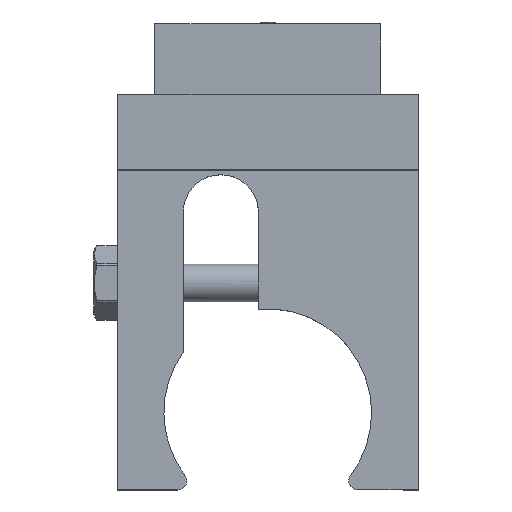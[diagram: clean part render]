
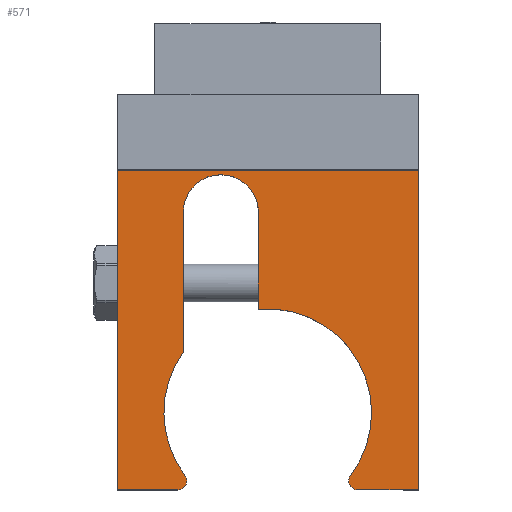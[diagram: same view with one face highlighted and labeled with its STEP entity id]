
A CAD part, top view. The second image highlights one B-rep face of the part: STEP entity #571.
In plain terms, the highlighted planar face has unit normal (0, 0, 1).
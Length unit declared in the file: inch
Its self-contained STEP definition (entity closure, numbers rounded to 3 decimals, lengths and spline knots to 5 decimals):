
#175=CARTESIAN_POINT('',(1.,1.612,0.));
#176=VERTEX_POINT('',#175);
#183=CARTESIAN_POINT('',(1.,-0.513,0.));
#184=VERTEX_POINT('',#183);
#185=CARTESIAN_POINT('',(1.,1.612,0.));
#186=DIRECTION('',(0.0,-1.0,0.0));
#187=VECTOR('',#186,2.125);
#188=LINE('',#185,#187);
#189=EDGE_CURVE('',#176,#184,#188,.T.);
#240=CARTESIAN_POINT('',(-0.062,0.68721,0.));
#241=VERTEX_POINT('',#240);
#242=CARTESIAN_POINT('',(-0.062,1.331,0.));
#243=VERTEX_POINT('',#242);
#244=CARTESIAN_POINT('',(-0.062,0.68721,0.));
#245=DIRECTION('',(0.0,1.0,0.0));
#246=VECTOR('',#245,0.64379);
#247=LINE('',#244,#246);
#248=EDGE_CURVE('',#241,#243,#247,.T.);
#324=CARTESIAN_POINT('',(-0.562,1.331,0.));
#325=VERTEX_POINT('',#324);
#326=CARTESIAN_POINT('',(-0.562,0.40032,0.));
#327=VERTEX_POINT('',#326);
#328=CARTESIAN_POINT('',(-0.562,1.331,0.));
#329=DIRECTION('',(0.0,-1.0,0.0));
#330=VECTOR('',#329,0.93068);
#331=LINE('',#328,#330);
#332=EDGE_CURVE('',#325,#327,#331,.T.);
#465=CARTESIAN_POINT('',(-1.,1.612,0.));
#466=VERTEX_POINT('',#465);
#467=CARTESIAN_POINT('',(1.,1.612,0.));
#468=DIRECTION('',(-1.0,0.0,0.0));
#469=VECTOR('',#468,2.);
#470=LINE('',#467,#469);
#471=EDGE_CURVE('',#176,#466,#470,.T.);
#497=CARTESIAN_POINT('',(-0.05262,0.66076,0.));
#498=DIRECTION('',(0.0,0.0,1.0));
#499=DIRECTION('',(1.0,0.0,0.0));
#500=AXIS2_PLACEMENT_3D('',#497,#498,#499);
#501=PLANE('',#500);
#502=ORIENTED_EDGE('',*,*,#189,.F.);
#503=ORIENTED_EDGE('',*,*,#471,.T.);
#504=CARTESIAN_POINT('',(-1.,-0.513,0.));
#505=VERTEX_POINT('',#504);
#506=CARTESIAN_POINT('',(-1.,-0.513,0.));
#507=DIRECTION('',(0.0,1.0,0.0));
#508=VECTOR('',#507,2.125);
#509=LINE('',#506,#508);
#510=EDGE_CURVE('',#505,#466,#509,.T.);
#511=ORIENTED_EDGE('',*,*,#510,.F.);
#512=CARTESIAN_POINT('',(-0.59774,-0.513,0.));
#513=VERTEX_POINT('',#512);
#514=CARTESIAN_POINT('',(-0.59774,-0.513,0.));
#515=DIRECTION('',(-1.0,0.0,0.0));
#516=VECTOR('',#515,0.40226);
#517=LINE('',#514,#516);
#518=EDGE_CURVE('',#513,#505,#517,.T.);
#519=ORIENTED_EDGE('',*,*,#518,.F.);
#520=CARTESIAN_POINT('',(-0.54992,-0.41676,0.));
#521=VERTEX_POINT('',#520);
#522=CARTESIAN_POINT('',(-0.59774,-0.453,0.));
#523=DIRECTION('',(0.0,0.0,-1.0));
#524=DIRECTION('',(0.,1.0,0.0));
#525=AXIS2_PLACEMENT_3D('',#522,#523,#524);
#526=CIRCLE('',#525,0.06);
#527=EDGE_CURVE('',#521,#513,#526,.T.);
#528=ORIENTED_EDGE('',*,*,#527,.F.);
#529=CARTESIAN_POINT('',(0.0,0.0,0.));
#530=DIRECTION('',(0.0,0.0,1.0));
#531=DIRECTION('',(-0.814,0.58,0.0));
#532=AXIS2_PLACEMENT_3D('',#529,#530,#531);
#533=CIRCLE('',#532,0.69);
#534=EDGE_CURVE('',#327,#521,#533,.T.);
#535=ORIENTED_EDGE('',*,*,#534,.F.);
#536=ORIENTED_EDGE('',*,*,#332,.F.);
#537=CARTESIAN_POINT('',(-0.312,1.331,0.));
#538=DIRECTION('',(0.0,0.0,1.0));
#539=DIRECTION('',(1.0,0.0,0.0));
#540=AXIS2_PLACEMENT_3D('',#537,#538,#539);
#541=CIRCLE('',#540,0.25);
#542=EDGE_CURVE('',#243,#325,#541,.T.);
#543=ORIENTED_EDGE('',*,*,#542,.F.);
#544=ORIENTED_EDGE('',*,*,#248,.F.);
#545=CARTESIAN_POINT('',(0.54992,-0.41676,0.));
#546=VERTEX_POINT('',#545);
#547=CARTESIAN_POINT('',(0.0,0.0,0.));
#548=DIRECTION('',(0.0,0.0,1.0));
#549=DIRECTION('',(0.797,-0.604,0.0));
#550=AXIS2_PLACEMENT_3D('',#547,#548,#549);
#551=CIRCLE('',#550,0.69);
#552=EDGE_CURVE('',#546,#241,#551,.T.);
#553=ORIENTED_EDGE('',*,*,#552,.F.);
#554=CARTESIAN_POINT('',(0.59774,-0.513,0.));
#555=VERTEX_POINT('',#554);
#556=CARTESIAN_POINT('',(0.59774,-0.453,0.));
#557=DIRECTION('',(0.0,0.0,-1.0));
#558=DIRECTION('',(0.797,-0.604,0.0));
#559=AXIS2_PLACEMENT_3D('',#556,#557,#558);
#560=CIRCLE('',#559,0.06);
#561=EDGE_CURVE('',#555,#546,#560,.T.);
#562=ORIENTED_EDGE('',*,*,#561,.F.);
#563=CARTESIAN_POINT('',(1.,-0.513,0.));
#564=DIRECTION('',(-1.0,0.0,0.0));
#565=VECTOR('',#564,0.40226);
#566=LINE('',#563,#565);
#567=EDGE_CURVE('',#184,#555,#566,.T.);
#568=ORIENTED_EDGE('',*,*,#567,.F.);
#569=EDGE_LOOP('',(#502,#503,#511,#519,#528,#535,#536,#543,#544,#553,#562,#568));
#570=FACE_OUTER_BOUND('',#569,.T.);
#571=ADVANCED_FACE('',(#570),#501,.T.);
